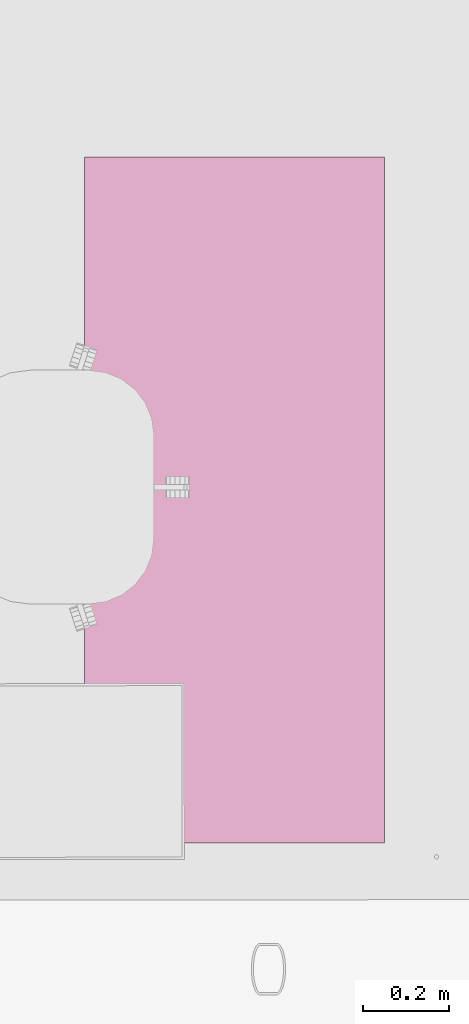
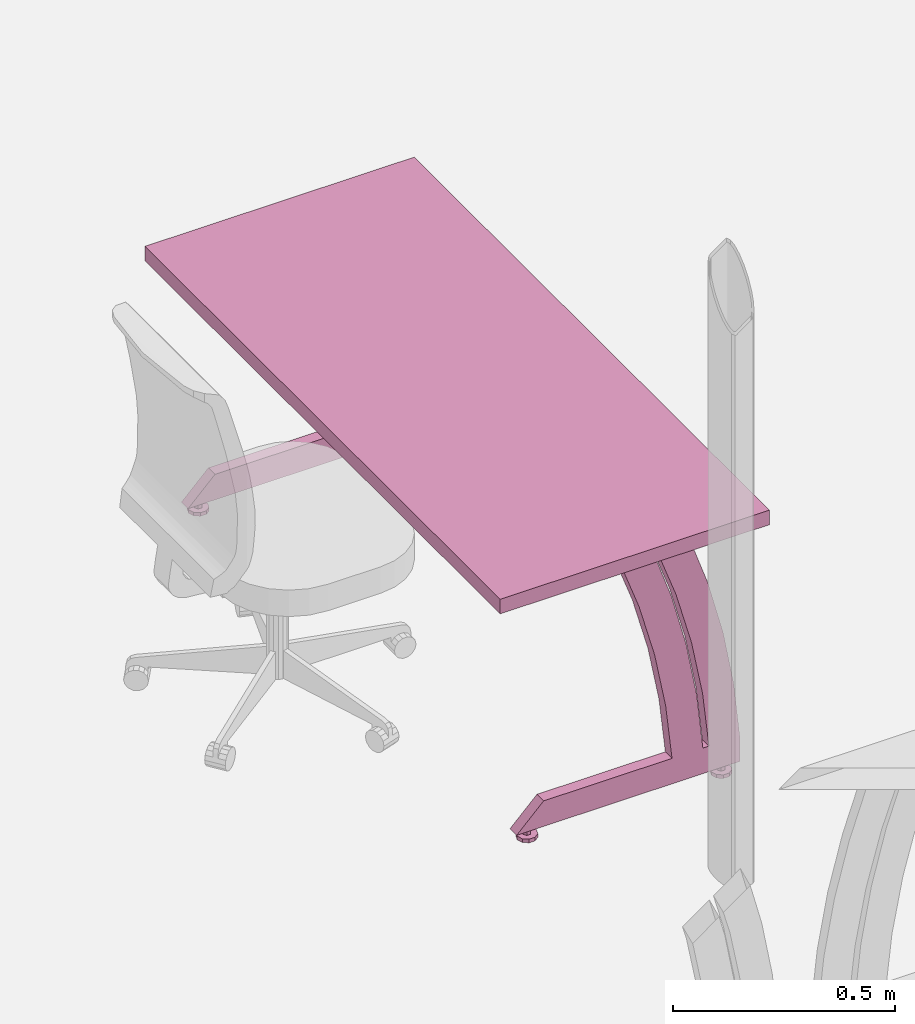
# One storey, part 118 of 128: 1 furnishing.
"""IFC2X3 building model written with IfcOpenShell, lengths in metres."""

from ifc_helpers import new_model, entity, si_unit, converted_unit, derived_unit, direction, frame, origin, place, context, subcontext, project, spatial, faceted_brep, source, transform, mapped, material, type_object, type_shapes, element, save


model = new_model("IFC2X3")

# Units and contexts
model_context = context("Model", 3, precision=1e-05, world=origin(), true_north=direction((6.123031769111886e-17, 1.0)))
body_context = subcontext(model_context, "Body", "Model", "MODEL_VIEW")
ifc_project = project(units=[si_unit("LENGTHUNIT", "METRE"), si_unit("AREAUNIT", "SQUARE_METRE"), converted_unit("PLANEANGLEUNIT", "DEGREE", entity("IfcPlaneAngleMeasure", 0.017453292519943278), si_unit("PLANEANGLEUNIT", "RADIAN"), dimensions=[0, 0, 0, 0, 0, 0, 0]), derived_unit("THERMALTRANSMITTANCEUNIT", [(si_unit("MASSUNIT", "GRAM", prefix="KILO"), 1), (si_unit("THERMODYNAMICTEMPERATUREUNIT", "KELVIN"), -1), (si_unit("TIMEUNIT", "SECOND"), -3)])], contexts=[model_context])

# Site, building, storey
site_placement = place(None, origin())
site = spatial("IfcSite", under=ifc_project, at=site_placement, Name="Default", CompositionType="ELEMENT")
building_placement = place(site_placement, origin())
building = spatial("IfcBuilding", under=site, at=building_placement, CompositionType="ELEMENT")
storey_placement = place(building_placement, origin())
storey = spatial("IfcBuildingStorey", under=building, at=storey_placement, Name="00_RDC CAF", CompositionType="ELEMENT", Elevation=2.4982504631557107e-13)

# Furnishing
ifc_material = material(Name="ARC - Mo - Blanc")
furniture_type = type_object("IfcFurnitureType", Name="Mo_Bureau:Mo_Bureau_1600x700mm", AssemblyPlace="NOTDEFINED", material=ifc_material)
shared_shape = source(origin(), body_context, "Body", "Brep", [
    faceted_brep([(0.0599999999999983, -0.5962325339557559, 0.0), (0.03622358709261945, -0.5885071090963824, 0.0), (0.040764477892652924, -0.5822571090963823, 0.0), (0.04530536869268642, -0.5760071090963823, 0.0), (0.0526526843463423, -0.5736198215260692, 0.0), (0.059999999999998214, -0.571232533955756, 0.0), (0.06734731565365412, -0.573619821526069, 0.0), (0.036223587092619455, -0.596232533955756, 0.0), (0.03622358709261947, -0.6039579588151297, 0.0), (0.040764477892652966, -0.6102079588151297, 0.0), (0.045305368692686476, -0.6164579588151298, 0.0), (0.052652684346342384, -0.6188452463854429, 0.0), (0.0599999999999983, -0.621232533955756, 0.0), (0.07469463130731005, -0.5760071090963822, 0.0), (0.07923552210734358, -0.5822571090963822, 0.0), (0.0837764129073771, -0.5885071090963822, 0.0), (0.08377641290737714, -0.5962325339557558, 0.0), (0.06734731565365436, -0.6188452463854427, 0.0), (0.07469463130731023, -0.6164579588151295, 0.0), (0.07923552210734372, -0.6102079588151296, 0.0), (0.08377641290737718, -0.6039579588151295, 0.0), (0.0599999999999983, -0.5962325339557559, 0.024999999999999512), (0.05999999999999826, -0.5862325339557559, 0.024999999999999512), (0.05133974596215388, -0.5912325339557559, 0.024999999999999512), (0.05133974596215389, -0.6012325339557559, 0.024999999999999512), (0.0599999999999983, -0.606232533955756, 0.024999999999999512), (0.06866025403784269, -0.5912325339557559, 0.024999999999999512), (0.06866025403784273, -0.6012325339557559, 0.024999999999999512), (0.05133974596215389, -0.6012325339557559, 0.01000000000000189), (0.0599999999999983, -0.606232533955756, 0.01000000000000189), (0.05133974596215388, -0.5912325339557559, 0.01000000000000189), (0.05999999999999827, -0.5862325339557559, 0.01000000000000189), (0.06866025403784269, -0.5912325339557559, 0.01000000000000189), (0.06866025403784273, -0.6012325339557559, 0.01000000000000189), (0.05999999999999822, -0.571232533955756, 0.01000000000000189), (0.05554606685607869, -0.57267970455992, 0.01000000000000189), (0.05109213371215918, -0.574126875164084, 0.01000000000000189), (0.04530536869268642, -0.5760071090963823, 0.01000000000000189), (0.06734731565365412, -0.573619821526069, 0.01000000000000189), (0.07469463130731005, -0.5760071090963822, 0.01000000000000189), (0.07923552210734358, -0.5822571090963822, 0.01000000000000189), (0.0837764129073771, -0.5885071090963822, 0.01000000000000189), (0.08377641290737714, -0.5962325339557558, 0.01000000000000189), (0.08377641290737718, -0.6039579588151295, 0.01000000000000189), (0.07923552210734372, -0.6102079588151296, 0.01000000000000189), (0.07469463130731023, -0.6164579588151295, 0.01000000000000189), (0.06890786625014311, -0.6183381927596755, 0.01000000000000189), (0.06445393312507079, -0.6197853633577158, 0.01000000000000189), (0.0599999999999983, -0.621232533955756, 0.01000000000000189), (0.052652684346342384, -0.6188452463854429, 0.01000000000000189), (0.045305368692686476, -0.6164579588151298, 0.01000000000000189), (0.03622358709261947, -0.6039579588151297, 0.01000000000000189), (0.04076447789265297, -0.6102079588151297, 0.01000000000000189), (0.04076447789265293, -0.5822571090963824, 0.01000000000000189), (0.03622358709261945, -0.5885071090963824, 0.01000000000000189), (0.03622358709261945, -0.5962325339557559, 0.01000000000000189)], [[[0, 1, 2]], [[0, 2, 3]], [[0, 3, 4]], [[0, 4, 5]], [[0, 5, 6]], [[0, 7, 1]], [[0, 8, 7]], [[0, 9, 8]], [[0, 10, 9]], [[0, 11, 10]], [[0, 12, 11]], [[0, 6, 13]], [[0, 13, 14]], [[0, 14, 15]], [[0, 15, 16]], [[0, 17, 12]], [[0, 18, 17]], [[0, 19, 18]], [[0, 20, 19]], [[0, 16, 20]], [[21, 22, 23]], [[23, 24, 21]], [[24, 25, 21]], [[21, 26, 22]], [[25, 27, 21]], [[26, 21, 27]], [[25, 24, 28, 29]], [[24, 23, 30, 28]], [[23, 22, 31, 30]], [[22, 26, 32, 31]], [[26, 27, 33, 32]], [[27, 25, 29, 33]], [[31, 34, 35]], [[31, 35, 36]], [[31, 36, 37]], [[31, 37, 30]], [[31, 38, 34]], [[31, 39, 38]], [[32, 39, 31]], [[32, 40, 39]], [[32, 41, 40]], [[32, 42, 41]], [[32, 43, 42]], [[32, 33, 43]], [[33, 44, 43]], [[33, 45, 44]], [[33, 29, 45]], [[29, 46, 45]], [[29, 47, 46]], [[29, 48, 47]], [[29, 49, 48]], [[29, 50, 49]], [[29, 28, 50]], [[30, 51, 28]], [[28, 51, 52]], [[28, 52, 50]], [[30, 37, 53]], [[30, 53, 54]], [[30, 54, 55]], [[30, 55, 51]], [[11, 12, 48, 49, 50, 10]], [[8, 9, 10, 50, 52, 51]], [[7, 8, 51, 55, 54, 1]], [[3, 37, 36, 35, 34, 5, 4]], [[54, 53, 37, 3, 2, 1]], [[6, 5, 34, 38, 39, 13]], [[15, 14, 13, 39, 40, 41]], [[16, 15, 41, 42, 43, 20]], [[18, 45, 46, 47, 48, 12, 17]], [[43, 44, 45, 18, 19, 20]]]),
    faceted_brep([(0.0599999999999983, -0.09132706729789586, 0.0), (0.03622358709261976, -0.08360164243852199, 0.0), (0.04076447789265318, -0.07735164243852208, 0.0), (0.045305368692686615, -0.07110164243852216, 0.0), (0.05265268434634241, -0.06871435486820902, 0.0), (0.059999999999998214, -0.06632706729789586, 0.0), (0.06734731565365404, -0.06871435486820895, 0.0), (0.03622358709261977, -0.09132706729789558, 0.0), (0.03622358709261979, -0.09905249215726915, 0.0), (0.040764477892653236, -0.10530249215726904, 0.0), (0.045305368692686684, -0.11155249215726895, 0.0), (0.05265268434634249, -0.11393977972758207, 0.0), (0.0599999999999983, -0.11632706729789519, 0.0), (0.07469463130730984, -0.07110164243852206, 0.0), (0.0792355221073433, -0.07735164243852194, 0.0), (0.08377641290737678, -0.08360164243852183, 0.0), (0.08377641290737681, -0.09132706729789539, 0.0), (0.06734731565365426, -0.11393977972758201, 0.0), (0.07469463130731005, -0.11155249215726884, 0.0), (0.07923552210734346, -0.1053024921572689, 0.0), (0.08377641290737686, -0.09905249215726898, 0.0), (0.0599999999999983, -0.09132706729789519, 0.024999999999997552), (0.05999999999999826, -0.08132706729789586, 0.024999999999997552), (0.051339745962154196, -0.08632706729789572, 0.024999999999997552), (0.05133974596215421, -0.09632706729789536, 0.024999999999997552), (0.0599999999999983, -0.10132706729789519, 0.024999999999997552), (0.06866025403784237, -0.08632706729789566, 0.024999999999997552), (0.06866025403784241, -0.09632706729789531, 0.024999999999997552), (0.05133974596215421, -0.09632706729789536, 0.009999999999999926), (0.0599999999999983, -0.10132706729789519, 0.009999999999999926), (0.051339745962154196, -0.08632706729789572, 0.009999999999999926), (0.05999999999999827, -0.08132706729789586, 0.009999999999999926), (0.06866025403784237, -0.08632706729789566, 0.009999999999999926), (0.06866025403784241, -0.09632706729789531, 0.009999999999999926), (0.059999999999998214, -0.06632706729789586, 0.009999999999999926), (0.05554606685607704, -0.06777423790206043, 0.009999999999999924), (0.05109213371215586, -0.06922140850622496, 0.009999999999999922), (0.045305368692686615, -0.07110164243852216, 0.009999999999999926), (0.06734731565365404, -0.06871435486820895, 0.009999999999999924), (0.07469463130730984, -0.07110164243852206, 0.009999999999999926), (0.0792355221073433, -0.07735164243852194, 0.009999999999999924), (0.08377641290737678, -0.08360164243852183, 0.009999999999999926), (0.08377641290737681, -0.0913270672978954, 0.009999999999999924), (0.08377641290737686, -0.09905249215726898, 0.009999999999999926), (0.07923552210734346, -0.1053024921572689, 0.009999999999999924), (0.07469463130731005, -0.11155249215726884, 0.009999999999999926), (0.06890786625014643, -0.11343272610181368, 0.009999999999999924), (0.06445393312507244, -0.11487989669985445, 0.009999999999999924), (0.0599999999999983, -0.11632706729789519, 0.009999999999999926), (0.05265268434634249, -0.11393977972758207, 0.009999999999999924), (0.045305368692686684, -0.11155249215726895, 0.009999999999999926), (0.03622358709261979, -0.09905249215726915, 0.009999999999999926), (0.040764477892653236, -0.10530249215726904, 0.009999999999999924), (0.04076447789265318, -0.07735164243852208, 0.009999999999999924), (0.03622358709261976, -0.08360164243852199, 0.009999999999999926), (0.03622358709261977, -0.09132706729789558, 0.009999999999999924)], [[[0, 1, 2]], [[0, 2, 3]], [[0, 3, 4]], [[0, 4, 5]], [[0, 5, 6]], [[0, 7, 1]], [[0, 8, 7]], [[0, 9, 8]], [[0, 10, 9]], [[0, 11, 10]], [[0, 12, 11]], [[0, 6, 13]], [[0, 13, 14]], [[0, 14, 15]], [[0, 15, 16]], [[0, 17, 12]], [[0, 18, 17]], [[0, 19, 18]], [[0, 20, 19]], [[0, 16, 20]], [[21, 22, 23]], [[23, 24, 21]], [[24, 25, 21]], [[21, 26, 22]], [[25, 27, 21]], [[26, 21, 27]], [[25, 24, 28, 29]], [[24, 23, 30, 28]], [[23, 22, 31, 30]], [[22, 26, 32, 31]], [[26, 27, 33, 32]], [[27, 25, 29, 33]], [[31, 34, 35]], [[31, 35, 36]], [[31, 36, 37]], [[31, 37, 30]], [[31, 38, 34]], [[31, 39, 38]], [[32, 39, 31]], [[32, 40, 39]], [[32, 41, 40]], [[32, 42, 41]], [[32, 43, 42]], [[32, 33, 43]], [[33, 44, 43]], [[33, 45, 44]], [[33, 29, 45]], [[29, 46, 45]], [[29, 47, 46]], [[29, 48, 47]], [[29, 49, 48]], [[29, 50, 49]], [[29, 28, 50]], [[30, 51, 28]], [[28, 51, 52]], [[28, 52, 50]], [[30, 37, 53]], [[30, 53, 54]], [[30, 54, 55]], [[30, 55, 51]], [[11, 12, 48, 49, 50, 10]], [[8, 9, 10, 50, 52, 51]], [[7, 8, 51, 55, 54, 1]], [[3, 37, 36, 35, 34, 5, 4]], [[54, 53, 37, 3, 2, 1]], [[6, 5, 34, 38, 39, 13]], [[15, 14, 13, 39, 40, 41]], [[16, 15, 41, 42, 43, 20]], [[18, 45, 46, 47, 48, 12, 17]], [[43, 44, 45, 18, 19, 20]]]),
    faceted_brep([(0.0449999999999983, -0.22742160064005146, 0.09499999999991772), (0.0449999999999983, -0.24409269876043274, 0.24614112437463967), (0.0449999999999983, -0.2727144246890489, 0.395480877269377), (0.0449999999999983, -0.3131059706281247, 0.5420758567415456), (0.0449999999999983, -0.36501217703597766, 0.6849999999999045), (0.0449999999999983, -0.27887211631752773, 0.684999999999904), (0.0449999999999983, -0.22919246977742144, 0.5416912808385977), (0.0449999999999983, -0.19055436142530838, 0.39501969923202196), (0.0449999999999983, -0.1631815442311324, 0.24583462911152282), (0.0449999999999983, -0.14723253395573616, 0.09499999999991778), (0.07499999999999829, -0.3650121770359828, 0.6849999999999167), (0.07499999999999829, -0.3131059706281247, 0.5420758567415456), (0.07499999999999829, -0.2727144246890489, 0.395480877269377), (0.07499999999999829, -0.24409269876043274, 0.24614112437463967), (0.07499999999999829, -0.22742160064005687, 0.09499999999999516), (0.07499999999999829, -0.14723253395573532, 0.09499999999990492), (0.07499999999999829, -0.1631815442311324, 0.24583462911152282), (0.07499999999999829, -0.19055436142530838, 0.39501969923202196), (0.07499999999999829, -0.22919246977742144, 0.5416912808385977), (0.07499999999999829, -0.278872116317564, 0.6849999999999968)], [[[0, 1, 2, 3, 4, 5, 6, 7, 8, 9]], [[10, 11, 12, 13, 14, 15, 16, 17, 18, 19]], [[10, 19, 5, 4]], [[3, 11, 10, 4]], [[2, 12, 11, 3]], [[0, 14, 13, 1]], [[12, 2, 1, 13]], [[15, 14, 0, 9]], [[8, 7, 17, 16]], [[15, 9, 8, 16]], [[6, 5, 19, 18]], [[6, 18, 17, 7]]]),
    faceted_brep([(0.0449999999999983, -0.13142160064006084, 0.09500000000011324), (0.0449999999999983, -0.14809269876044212, 0.24614112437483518), (0.0449999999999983, -0.1767144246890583, 0.3954808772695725), (0.0449999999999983, -0.21710597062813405, 0.5420758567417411), (0.0449999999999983, -0.269012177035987, 0.6850000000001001), (0.0449999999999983, -0.18287211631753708, 0.6850000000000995), (0.0449999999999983, -0.13319246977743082, 0.5416912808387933), (0.0449999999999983, -0.09455436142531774, 0.39501969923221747), (0.0449999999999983, -0.06718154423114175, 0.24583462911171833), (0.0449999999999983, -0.05123253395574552, 0.0950000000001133), (0.07499999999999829, -0.2690121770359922, 0.6850000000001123), (0.07499999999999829, -0.21710597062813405, 0.5420758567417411), (0.07499999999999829, -0.1767144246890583, 0.3954808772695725), (0.07499999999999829, -0.14809269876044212, 0.24614112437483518), (0.07499999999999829, -0.13142160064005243, 0.09499999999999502), (0.07499999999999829, -0.0512325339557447, 0.09500000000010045), (0.07499999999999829, -0.06718154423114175, 0.24583462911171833), (0.07499999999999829, -0.09455436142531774, 0.39501969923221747), (0.07499999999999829, -0.13319246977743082, 0.5416912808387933), (0.07499999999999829, -0.1828721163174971, 0.684999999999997)], [[[0, 1, 2, 3, 4, 5, 6, 7, 8, 9]], [[10, 11, 12, 13, 14, 15, 16, 17, 18, 19]], [[10, 19, 5, 4]], [[3, 11, 10, 4]], [[2, 12, 11, 3]], [[0, 14, 13, 1]], [[12, 2, 1, 13]], [[15, 14, 0, 9]], [[8, 7, 17, 16]], [[15, 9, 8, 16]], [[6, 5, 19, 18]], [[6, 18, 17, 7]]]),
    faceted_brep([(0.0449999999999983, -0.05123253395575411, 0.024999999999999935), (0.0449999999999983, -0.6312325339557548, 0.024999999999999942), (0.0449999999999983, -0.5612325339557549, 0.09499999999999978), (0.0449999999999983, -0.05123253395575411, 0.09499999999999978), (0.07499999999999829, -0.05123253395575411, 0.024999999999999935), (0.07499999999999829, -0.05123253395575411, 0.09499999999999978), (0.07499999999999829, -0.5612325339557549, 0.09499999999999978), (0.07499999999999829, -0.6312325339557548, 0.024999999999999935)], [[[0, 1, 2, 3]], [[4, 5, 6, 7]], [[5, 4, 0, 3]], [[6, 5, 3, 2]], [[4, 7, 1, 0]], [[7, 6, 2, 1]]]),
    faceted_brep([(1.5399999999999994, -0.5962325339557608, 0.0), (1.5162235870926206, -0.5885071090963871, 0.0), (1.5207644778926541, -0.5822571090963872, 0.0), (1.5253053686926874, -0.5760071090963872, 0.0), (1.5326526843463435, -0.5736198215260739, 0.0), (1.5399999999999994, -0.5712325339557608, 0.0), (1.5473473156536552, -0.5736198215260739, 0.0), (1.5162235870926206, -0.5962325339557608, 0.0), (1.5162235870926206, -0.6039579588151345, 0.0), (1.5207644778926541, -0.6102079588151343, 0.0), (1.5253053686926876, -0.6164579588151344, 0.0), (1.5326526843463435, -0.6188452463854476, 0.0), (1.5399999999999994, -0.6212325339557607, 0.0), (1.5546946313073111, -0.576007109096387, 0.0), (1.5592355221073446, -0.5822571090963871, 0.0), (1.5637764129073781, -0.5885071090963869, 0.0), (1.5637764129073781, -0.5962325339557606, 0.0), (1.5473473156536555, -0.6188452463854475, 0.0), (1.5546946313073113, -0.6164579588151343, 0.0), (1.5592355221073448, -0.6102079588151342, 0.0), (1.5637764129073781, -0.6039579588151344, 0.0), (1.5399999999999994, -0.5962325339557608, 0.024999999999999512), (1.5399999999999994, -0.5862325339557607, 0.024999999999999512), (1.531339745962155, -0.5912325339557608, 0.024999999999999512), (1.531339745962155, -0.6012325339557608, 0.024999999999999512), (1.5399999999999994, -0.6062325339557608, 0.024999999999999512), (1.548660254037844, -0.5912325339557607, 0.024999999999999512), (1.548660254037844, -0.6012325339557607, 0.024999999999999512), (1.531339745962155, -0.6012325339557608, 0.01000000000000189), (1.5399999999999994, -0.6062325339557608, 0.01000000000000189), (1.531339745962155, -0.5912325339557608, 0.01000000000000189), (1.5399999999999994, -0.5862325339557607, 0.01000000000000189), (1.548660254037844, -0.5912325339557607, 0.01000000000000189), (1.548660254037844, -0.6012325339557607, 0.01000000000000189), (1.5399999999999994, -0.5712325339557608, 0.01000000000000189), (1.5355460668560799, -0.5726797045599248, 0.01000000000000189), (1.5310921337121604, -0.5741268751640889, 0.01000000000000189), (1.5253053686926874, -0.5760071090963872, 0.01000000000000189), (1.5473473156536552, -0.5736198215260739, 0.01000000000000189), (1.5546946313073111, -0.576007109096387, 0.01000000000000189), (1.5592355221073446, -0.5822571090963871, 0.01000000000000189), (1.5637764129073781, -0.5885071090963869, 0.01000000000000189), (1.5637764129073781, -0.5962325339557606, 0.01000000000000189), (1.5637764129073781, -0.6039579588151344, 0.01000000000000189), (1.5592355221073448, -0.6102079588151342, 0.01000000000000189), (1.5546946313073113, -0.6164579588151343, 0.01000000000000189), (1.5489078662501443, -0.6183381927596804, 0.01000000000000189), (1.544453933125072, -0.6197853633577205, 0.01000000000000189), (1.5399999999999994, -0.6212325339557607, 0.01000000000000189), (1.5326526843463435, -0.6188452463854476, 0.01000000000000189), (1.5253053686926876, -0.6164579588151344, 0.01000000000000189), (1.5162235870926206, -0.6039579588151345, 0.01000000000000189), (1.5207644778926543, -0.6102079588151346, 0.01000000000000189), (1.5207644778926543, -0.5822571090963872, 0.01000000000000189), (1.5162235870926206, -0.5885071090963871, 0.01000000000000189), (1.5162235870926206, -0.5962325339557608, 0.01000000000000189)], [[[0, 1, 2]], [[0, 2, 3]], [[0, 3, 4]], [[0, 4, 5]], [[0, 5, 6]], [[0, 7, 1]], [[0, 8, 7]], [[0, 9, 8]], [[0, 10, 9]], [[0, 11, 10]], [[0, 12, 11]], [[0, 6, 13]], [[0, 13, 14]], [[0, 14, 15]], [[0, 15, 16]], [[0, 17, 12]], [[0, 18, 17]], [[0, 19, 18]], [[0, 20, 19]], [[0, 16, 20]], [[21, 22, 23]], [[23, 24, 21]], [[24, 25, 21]], [[21, 26, 22]], [[25, 27, 21]], [[26, 21, 27]], [[25, 24, 28, 29]], [[24, 23, 30, 28]], [[23, 22, 31, 30]], [[22, 26, 32, 31]], [[26, 27, 33, 32]], [[27, 25, 29, 33]], [[31, 34, 35]], [[31, 35, 36]], [[31, 36, 37]], [[31, 37, 30]], [[31, 38, 34]], [[31, 39, 38]], [[32, 39, 31]], [[32, 40, 39]], [[32, 41, 40]], [[32, 42, 41]], [[32, 43, 42]], [[32, 33, 43]], [[33, 44, 43]], [[33, 45, 44]], [[33, 29, 45]], [[29, 46, 45]], [[29, 47, 46]], [[29, 48, 47]], [[29, 49, 48]], [[29, 50, 49]], [[29, 28, 50]], [[30, 51, 28]], [[28, 51, 52]], [[28, 52, 50]], [[30, 37, 53]], [[30, 53, 54]], [[30, 54, 55]], [[30, 55, 51]], [[11, 12, 48, 49, 50, 10]], [[8, 9, 10, 50, 52, 51]], [[7, 8, 51, 55, 54, 1]], [[3, 37, 36, 35, 34, 5, 4]], [[54, 53, 37, 3, 2, 1]], [[6, 5, 34, 38, 39, 13]], [[15, 14, 13, 39, 40, 41]], [[16, 15, 41, 42, 43, 20]], [[18, 45, 46, 47, 48, 12, 17]], [[43, 44, 45, 18, 19, 20]]]),
    faceted_brep([(1.5399999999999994, -0.09132706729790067, 0.0), (1.5162235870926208, -0.08360164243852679, 0.0), (1.5207644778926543, -0.07735164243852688, 0.0), (1.5253053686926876, -0.07110164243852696, 0.0), (1.5326526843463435, -0.06871435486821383, 0.0), (1.5399999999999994, -0.06632706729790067, 0.0), (1.5473473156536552, -0.06871435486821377, 0.0), (1.5162235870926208, -0.09132706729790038, 0.0), (1.5162235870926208, -0.09905249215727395, 0.0), (1.5207644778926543, -0.10530249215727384, 0.0), (1.5253053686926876, -0.11155249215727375, 0.0), (1.5326526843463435, -0.11393977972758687, 0.0), (1.5399999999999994, -0.11632706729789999, 0.0), (1.554694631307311, -0.07110164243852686, 0.0), (1.5592355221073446, -0.07735164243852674, 0.0), (1.563776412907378, -0.08360164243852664, 0.0), (1.563776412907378, -0.09132706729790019, 0.0), (1.5473473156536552, -0.11393977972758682, 0.0), (1.5546946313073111, -0.11155249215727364, 0.0), (1.5592355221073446, -0.10530249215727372, 0.0), (1.563776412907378, -0.09905249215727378, 0.0), (1.5399999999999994, -0.0913270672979, 0.024999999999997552), (1.5399999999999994, -0.08132706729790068, 0.024999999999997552), (1.5313397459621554, -0.08632706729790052, 0.024999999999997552), (1.5313397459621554, -0.09632706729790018, 0.024999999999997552), (1.5399999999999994, -0.10132706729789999, 0.024999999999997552), (1.5486602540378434, -0.08632706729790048, 0.024999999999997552), (1.5486602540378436, -0.09632706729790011, 0.024999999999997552), (1.5313397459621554, -0.09632706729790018, 0.009999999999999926), (1.5399999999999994, -0.10132706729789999, 0.009999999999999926), (1.5313397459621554, -0.08632706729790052, 0.009999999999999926), (1.5399999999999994, -0.08132706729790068, 0.009999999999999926), (1.5486602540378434, -0.08632706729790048, 0.009999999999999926), (1.5486602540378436, -0.09632706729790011, 0.009999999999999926), (1.5399999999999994, -0.06632706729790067, 0.009999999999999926), (1.5355460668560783, -0.06777423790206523, 0.009999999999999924), (1.5310921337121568, -0.06922140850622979, 0.009999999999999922), (1.5253053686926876, -0.07110164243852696, 0.009999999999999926), (1.5473473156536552, -0.06871435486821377, 0.009999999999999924), (1.554694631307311, -0.07110164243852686, 0.009999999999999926), (1.5592355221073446, -0.07735164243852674, 0.009999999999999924), (1.563776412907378, -0.08360164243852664, 0.009999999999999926), (1.563776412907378, -0.09132706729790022, 0.009999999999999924), (1.563776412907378, -0.09905249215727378, 0.009999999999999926), (1.5592355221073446, -0.10530249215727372, 0.009999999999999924), (1.5546946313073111, -0.11155249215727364, 0.009999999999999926), (1.5489078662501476, -0.11343272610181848, 0.009999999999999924), (1.5444539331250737, -0.11487989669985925, 0.009999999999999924), (1.5399999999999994, -0.11632706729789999, 0.009999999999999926), (1.5326526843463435, -0.11393977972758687, 0.009999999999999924), (1.5253053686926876, -0.11155249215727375, 0.009999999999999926), (1.5162235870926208, -0.09905249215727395, 0.009999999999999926), (1.5207644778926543, -0.10530249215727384, 0.009999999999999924), (1.5207644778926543, -0.07735164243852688, 0.009999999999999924), (1.5162235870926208, -0.08360164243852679, 0.009999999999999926), (1.5162235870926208, -0.09132706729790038, 0.009999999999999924)], [[[0, 1, 2]], [[0, 2, 3]], [[0, 3, 4]], [[0, 4, 5]], [[0, 5, 6]], [[0, 7, 1]], [[0, 8, 7]], [[0, 9, 8]], [[0, 10, 9]], [[0, 11, 10]], [[0, 12, 11]], [[0, 6, 13]], [[0, 13, 14]], [[0, 14, 15]], [[0, 15, 16]], [[0, 17, 12]], [[0, 18, 17]], [[0, 19, 18]], [[0, 20, 19]], [[0, 16, 20]], [[21, 22, 23]], [[23, 24, 21]], [[24, 25, 21]], [[21, 26, 22]], [[25, 27, 21]], [[26, 21, 27]], [[25, 24, 28, 29]], [[24, 23, 30, 28]], [[23, 22, 31, 30]], [[22, 26, 32, 31]], [[26, 27, 33, 32]], [[27, 25, 29, 33]], [[31, 34, 35]], [[31, 35, 36]], [[31, 36, 37]], [[31, 37, 30]], [[31, 38, 34]], [[31, 39, 38]], [[32, 39, 31]], [[32, 40, 39]], [[32, 41, 40]], [[32, 42, 41]], [[32, 43, 42]], [[32, 33, 43]], [[33, 44, 43]], [[33, 45, 44]], [[33, 29, 45]], [[29, 46, 45]], [[29, 47, 46]], [[29, 48, 47]], [[29, 49, 48]], [[29, 50, 49]], [[29, 28, 50]], [[30, 51, 28]], [[28, 51, 52]], [[28, 52, 50]], [[30, 37, 53]], [[30, 53, 54]], [[30, 54, 55]], [[30, 55, 51]], [[11, 12, 48, 49, 50, 10]], [[8, 9, 10, 50, 52, 51]], [[7, 8, 51, 55, 54, 1]], [[3, 37, 36, 35, 34, 5, 4]], [[54, 53, 37, 3, 2, 1]], [[6, 5, 34, 38, 39, 13]], [[15, 14, 13, 39, 40, 41]], [[16, 15, 41, 42, 43, 20]], [[18, 45, 46, 47, 48, 12, 17]], [[43, 44, 45, 18, 19, 20]]]),
    faceted_brep([(1.5249999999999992, -0.22742160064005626, 0.09499999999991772), (1.5249999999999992, -0.24409269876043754, 0.24614112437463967), (1.5249999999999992, -0.2727144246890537, 0.395480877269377), (1.5249999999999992, -0.3131059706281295, 0.5420758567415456), (1.5249999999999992, -0.3650121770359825, 0.6849999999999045), (1.5249999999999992, -0.2788721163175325, 0.684999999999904), (1.5249999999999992, -0.22919246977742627, 0.5416912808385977), (1.5249999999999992, -0.19055436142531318, 0.39501969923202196), (1.5249999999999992, -0.1631815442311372, 0.24583462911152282), (1.5249999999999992, -0.14723253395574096, 0.09499999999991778), (1.5549999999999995, -0.3650121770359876, 0.6849999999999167), (1.5549999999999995, -0.3131059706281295, 0.5420758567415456), (1.5549999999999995, -0.2727144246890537, 0.395480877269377), (1.5549999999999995, -0.24409269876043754, 0.24614112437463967), (1.5549999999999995, -0.22742160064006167, 0.09499999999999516), (1.5549999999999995, -0.14723253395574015, 0.09499999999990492), (1.5549999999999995, -0.1631815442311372, 0.24583462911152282), (1.5549999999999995, -0.19055436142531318, 0.39501969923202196), (1.5549999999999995, -0.22919246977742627, 0.5416912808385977), (1.5549999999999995, -0.27887211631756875, 0.6849999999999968)], [[[0, 1, 2, 3, 4, 5, 6, 7, 8, 9]], [[10, 11, 12, 13, 14, 15, 16, 17, 18, 19]], [[10, 19, 5, 4]], [[3, 11, 10, 4]], [[2, 12, 11, 3]], [[0, 14, 13, 1]], [[12, 2, 1, 13]], [[15, 14, 0, 9]], [[8, 7, 17, 16]], [[15, 9, 8, 16]], [[6, 5, 19, 18]], [[6, 18, 17, 7]]]),
    faceted_brep([(1.5249999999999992, -0.13142160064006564, 0.09500000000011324), (1.5249999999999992, -0.14809269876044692, 0.24614112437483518), (1.5249999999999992, -0.1767144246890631, 0.3954808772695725), (1.5249999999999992, -0.21710597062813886, 0.5420758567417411), (1.5249999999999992, -0.26901217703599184, 0.6850000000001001), (1.5249999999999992, -0.18287211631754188, 0.6850000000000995), (1.5249999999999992, -0.13319246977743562, 0.5416912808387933), (1.5249999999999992, -0.09455436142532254, 0.39501969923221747), (1.5249999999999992, -0.06718154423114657, 0.24583462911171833), (1.5249999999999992, -0.05123253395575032, 0.0950000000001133), (1.5549999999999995, -0.269012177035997, 0.6850000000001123), (1.5549999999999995, -0.21710597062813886, 0.5420758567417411), (1.5549999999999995, -0.1767144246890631, 0.3954808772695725), (1.5549999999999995, -0.14809269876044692, 0.24614112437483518), (1.5549999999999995, -0.13142160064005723, 0.09499999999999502), (1.5549999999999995, -0.05123253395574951, 0.09500000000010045), (1.5549999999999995, -0.06718154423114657, 0.24583462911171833), (1.5549999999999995, -0.09455436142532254, 0.39501969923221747), (1.5549999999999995, -0.13319246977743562, 0.5416912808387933), (1.5549999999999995, -0.18287211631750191, 0.684999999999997)], [[[0, 1, 2, 3, 4, 5, 6, 7, 8, 9]], [[10, 11, 12, 13, 14, 15, 16, 17, 18, 19]], [[10, 19, 5, 4]], [[3, 11, 10, 4]], [[2, 12, 11, 3]], [[0, 14, 13, 1]], [[12, 2, 1, 13]], [[15, 14, 0, 9]], [[8, 7, 17, 16]], [[15, 9, 8, 16]], [[6, 5, 19, 18]], [[6, 18, 17, 7]]]),
    faceted_brep([(1.5249999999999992, -0.05123253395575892, 0.024999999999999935), (1.5249999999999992, -0.6312325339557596, 0.024999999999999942), (1.5249999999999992, -0.5612325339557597, 0.09499999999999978), (1.5249999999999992, -0.05123253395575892, 0.09499999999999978), (1.5549999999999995, -0.05123253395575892, 0.024999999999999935), (1.5549999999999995, -0.05123253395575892, 0.09499999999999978), (1.5549999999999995, -0.5612325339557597, 0.09499999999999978), (1.5549999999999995, -0.6312325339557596, 0.024999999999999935)], [[[0, 1, 2, 3]], [[4, 5, 6, 7]], [[5, 4, 0, 3]], [[6, 5, 3, 2]], [[4, 7, 1, 0]], [[7, 6, 2, 1]]]),
    faceted_brep([(0.0, -0.6999999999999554, 0.685), (0.0, 0.0, 0.685), (1.599999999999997, 0.0, 0.684999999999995), (1.599999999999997, -0.6999999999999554, 0.684999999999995), (0.0, -0.6999999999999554, 0.7250000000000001), (1.599999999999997, -0.6999999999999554, 0.7249999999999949), (1.599999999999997, 0.0, 0.7249999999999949), (0.0, 0.0, 0.7250000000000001)], [[[0, 1, 2, 3]], [[4, 5, 6, 7]], [[5, 4, 0, 3]], [[6, 5, 3, 2]], [[7, 6, 2, 1]], [[4, 7, 1, 0]]]),
])
type_shapes(furniture_type, [shared_shape])
furnishing_placement = place(storey_placement, frame((41.26290792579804, 138.4839976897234, 0.0), z_axis=(0.0, 0.0, 1.0), x_axis=(0.0, -1.0, 0.0)))
element("IfcFurnishingElement", 1, at=furnishing_placement, inside=storey, type_object=furniture_type, material=ifc_material, Name="Mo_Bureau:Mo_Bureau_1600x700mm", ObjectType="Mo_Bureau:Mo_Bureau_1600x700mm", context=body_context, shape_type="MappedRepresentation", body=[
    mapped(shared_shape, transform((0.0, 0.0, 0.0), scale=1.0)),
])

save(model, "model.ifc")
